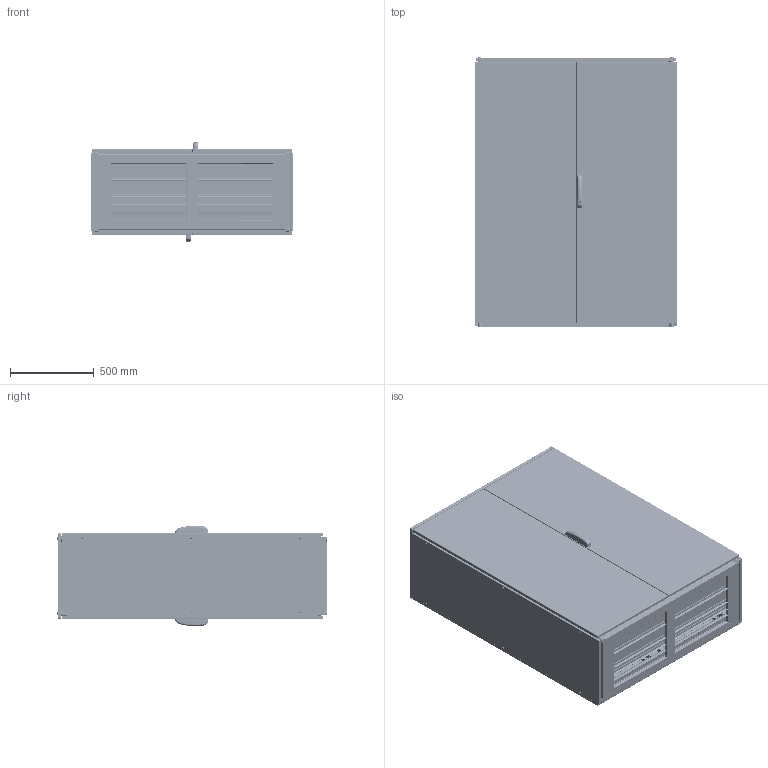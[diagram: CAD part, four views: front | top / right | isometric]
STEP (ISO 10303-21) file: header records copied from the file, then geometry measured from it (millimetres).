
FILE_DESCRIPTION (( 'STEP AP203' ), '1' );
FILE_NAME ('ENUX121605DP.STEP', '2025-06-03T06:36:43', ( '' ), ( '' ), 'SwSTEP 2.0', 'SolidWorks 2022', '' );
FILE_SCHEMA (( 'CONFIG_CONTROL_DESIGN' ));
Length unit declared in the file: millimetre
Products named in the file (15): AR_ENUX_nuova_maniglia_mesan; AR_ENUX_Struttura_1200x1600x0500; AR_ENUX_Tegolino_1200x0100; AR_ENUX_montaggio_porta_IB_2.0_1200x1600_POST_DX; AR_ENUX_Fianco_0500x1600_SX; AR_ENUX_Tegolino_1200x0050; AR_ENUX_Porta_CB_2.0_1200x1600_ANT_DX; AR_ENUX_Vite_tetto; AR_ENUX_Fianco_0500x1600_DX; AR_ENUX_Porta_IB_2.0_1200x1600_POST; AR_ENUX_Porta_IB_2.0_1200x1600_ANT; AR_ENUX_Tetto_1200x0500; AR_ENUX_Porta_CB_2.0_1200x1600_POST_DX; AR_ENUX_montaggio_porta_IB_2.0_1200x1600_ANT_DX; ENUX121605DP
Assembly tree (24 placements, depth 3):
  ENUX121605DP
    AR_ENUX_Struttura_1200x1600x0500
    AR_ENUX_Fianco_0500x1600_SX
    AR_ENUX_Fianco_0500x1600_DX
    AR_ENUX_Tetto_1200x0500
    AR_ENUX_Vite_tetto  x4
    AR_ENUX_Tegolino_1200x0050  x4
    AR_ENUX_Tegolino_1200x0100  x4
    AR_ENUX_montaggio_porta_IB_2.0_1200x1600_ANT_DX
      AR_ENUX_Porta_IB_2.0_1200x1600_ANT
      AR_ENUX_nuova_maniglia_mesan
    AR_ENUX_Porta_CB_2.0_1200x1600_ANT_DX
    AR_ENUX_montaggio_porta_IB_2.0_1200x1600_POST_DX
      AR_ENUX_Porta_IB_2.0_1200x1600_POST
      AR_ENUX_nuova_maniglia_mesan
    AR_ENUX_Porta_CB_2.0_1200x1600_POST_DX
Bounding box: 1212 x 1615.1 x 600 mm (x, y, z)
Volume: 17913071 mm3; surface area: 21470888.6 mm2
Topology: 22 solids, 23 shells, 10692 faces, 30199 edges, 19494 vertices
Faces by surface type: plane 5569, cylinder 4260, bspline 398, torus 247, cone 140, sphere 78
Entity records: 380060 total; most frequent: CARTESIAN_POINT 99885, ORIENTED_EDGE 57872, DIRECTION 56067, EDGE_CURVE 28936, LINE 19289, VECTOR 19289, VERTEX_POINT 18882, AXIS2_PLACEMENT_3D 18389
